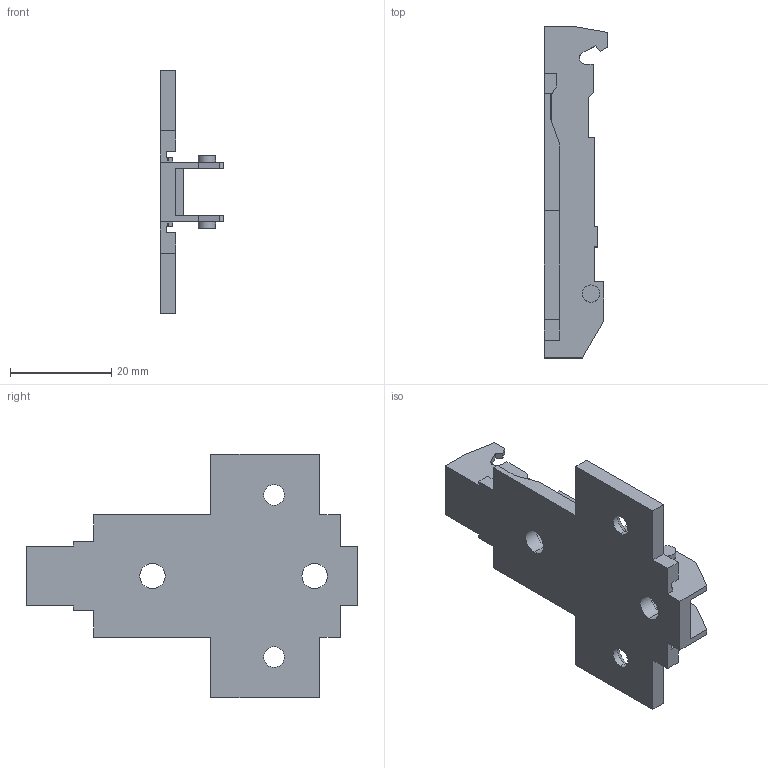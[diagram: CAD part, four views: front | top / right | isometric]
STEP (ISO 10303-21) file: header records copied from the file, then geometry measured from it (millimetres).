
FILE_DESCRIPTION (( 'STEP AP214' ), '1' );
FILE_NAME ('1D_Kreuzmontageplatte 28_32_Spax_2.step', '2018-10-02T12:38:31', ( '' ), ( '' ), 'SwSTEP 2.0', 'SolidWorks 2017', '' );
FILE_SCHEMA (( 'AUTOMOTIVE_DESIGN' ));
Length unit declared in the file: millimetre
Products named in the file (1): 1D_Kreuzmontageplatte 28_32_Spax_2
Bounding box: 12.5 x 65.5 x 48 mm (x, y, z)
Volume: 6320.5 mm3; surface area: 6653.2 mm2
Topology: 1 solids, 1 shells, 104 faces, 296 edges, 196 vertices
Faces by surface type: plane 82, cylinder 18, cone 4
Entity records: 3398 total; most frequent: CARTESIAN_POINT 597, ORIENTED_EDGE 592, DIRECTION 546, EDGE_CURVE 296, LINE 256, VECTOR 256, VERTEX_POINT 196, AXIS2_PLACEMENT_3D 145
